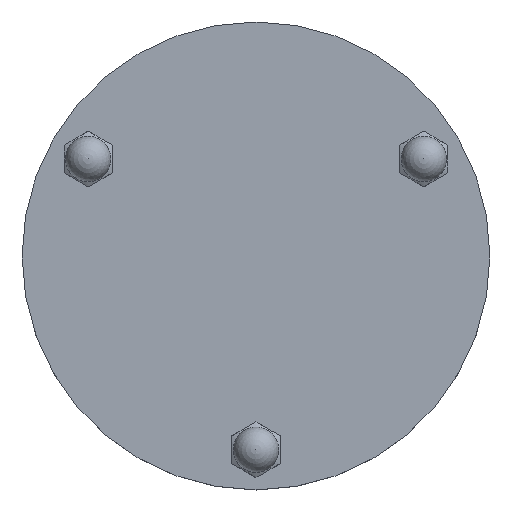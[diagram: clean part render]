
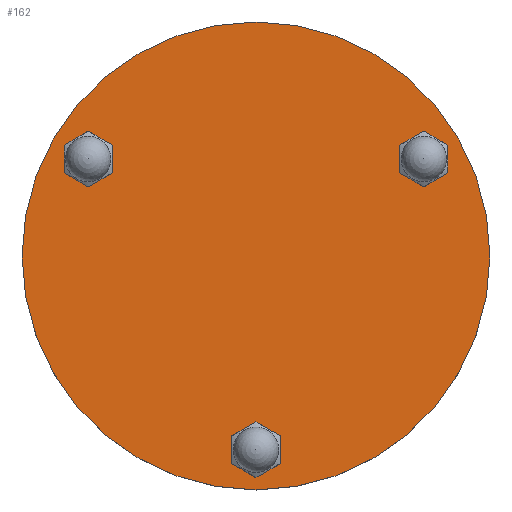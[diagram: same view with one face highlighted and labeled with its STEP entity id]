
A CAD part, top view. The second image highlights one B-rep face of the part: STEP entity #162.
In plain terms, the highlighted planar face has unit normal (0, 0, 1).
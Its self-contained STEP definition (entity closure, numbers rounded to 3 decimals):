
#162=ADVANCED_FACE('',(#827,#829,#831,#833),#835,.T.);
#827=FACE_BOUND('',#828,.T.);
#828=EDGE_LOOP('',(#1540));
#829=FACE_BOUND('',#830,.T.);
#830=EDGE_LOOP('',(#1541));
#831=FACE_BOUND('',#832,.T.);
#832=EDGE_LOOP('',(#1542));
#833=FACE_BOUND('',#834,.T.);
#834=EDGE_LOOP('',(#1543));
#835=PLANE('',#836);
#836=AXIS2_PLACEMENT_3D('',#837,#838,#839);
#837=CARTESIAN_POINT('',(0.,0.,213.));
#838=DIRECTION('',(0.,0.,1.));
#839=DIRECTION('',(-1.,0.,0.));
#1540=ORIENTED_EDGE('',*,*,#1904,.F.);
#1541=ORIENTED_EDGE('',*,*,#1905,.F.);
#1542=ORIENTED_EDGE('',*,*,#1906,.F.);
#1543=ORIENTED_EDGE('',*,*,#1907,.F.);
#1904=EDGE_CURVE('',#2056,#2056,#2057,.T.);
#1905=EDGE_CURVE('',#2058,#2058,#2059,.T.);
#1906=EDGE_CURVE('',#2060,#2060,#2061,.T.);
#1907=EDGE_CURVE('',#2062,#2062,#2063,.T.);
#2056=VERTEX_POINT('',#2301);
#2057=CIRCLE('',#2302,87.5);
#2058=VERTEX_POINT('',#2306);
#2059=CIRCLE('',#2307,8.1);
#2060=VERTEX_POINT('',#2311);
#2061=CIRCLE('',#2312,8.1);
#2062=VERTEX_POINT('',#2316);
#2063=CIRCLE('',#2317,8.1);
#2301=CARTESIAN_POINT('',(-87.5,0.,213.));
#2302=AXIS2_PLACEMENT_3D('',#2303,#2304,#2305);
#2303=CARTESIAN_POINT('',(0.,0.,213.));
#2304=DIRECTION('',(0.,0.,-1.));
#2305=DIRECTION('',(-1.,0.,0.));
#2306=CARTESIAN_POINT('',(69.802,40.3,213.));
#2307=AXIS2_PLACEMENT_3D('',#2308,#2309,#2310);
#2308=CARTESIAN_POINT('',(62.787,36.25,213.));
#2309=DIRECTION('',(0.,0.,1.));
#2310=DIRECTION('',(0.866,0.5,0.));
#2311=CARTESIAN_POINT('',(0.,-80.6,213.));
#2312=AXIS2_PLACEMENT_3D('',#2313,#2314,#2315);
#2313=CARTESIAN_POINT('',(0.,-72.5,213.));
#2314=DIRECTION('',(0.,0.,1.));
#2315=DIRECTION('',(0.,-1.,0.));
#2316=CARTESIAN_POINT('',(-69.802,40.3,213.));
#2317=AXIS2_PLACEMENT_3D('',#2318,#2319,#2320);
#2318=CARTESIAN_POINT('',(-62.787,36.25,213.));
#2319=DIRECTION('',(0.,0.,1.));
#2320=DIRECTION('',(-0.866,0.5,0.));
